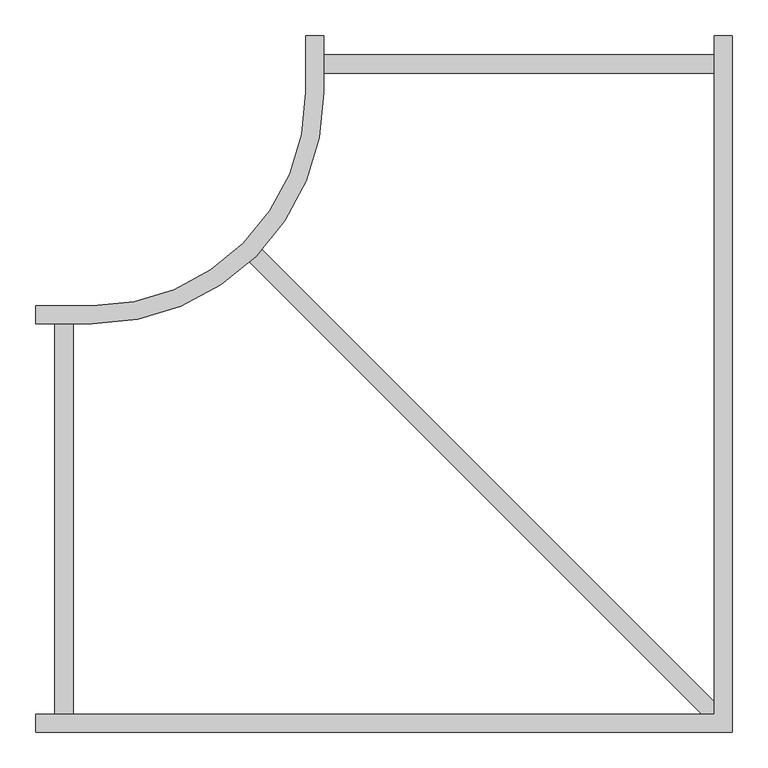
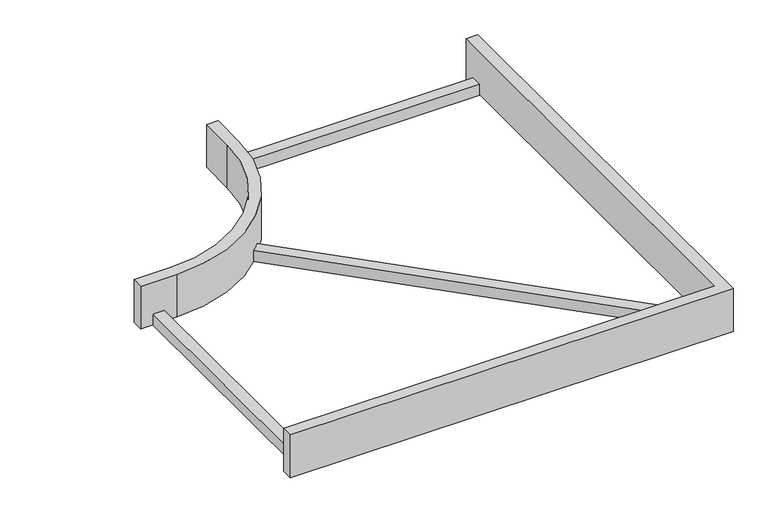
"""IFC4 building model written with IfcOpenShell, lengths in millimetres: cable carrier fitting geometry, Common_L 型接合部、交差梁付き : 03 強電_低圧."""

from ifc_helpers import new_model, si_unit, point, frame, frame_2d, origin, place, context, project, spatial, polyline, circle_curve, trimmed, segment, composite_curve, outline, extrude, source, transform, mapped, element, save


def cable_carrier_fitting_33c5562a(model_context):
    return source(origin(), model_context, "Body", "SweptSolid", [
        extrude(outline(composite_curve([segment(polyline([(274.6, -274.6), (256.6394878, -274.6), (-379.063021, 361.1025088)]), True, "CONTINUOUS"), segment(trimmed(circle_curve(frame_2d((-600.0, 600.0)), 325.4), [point((-379.063021, 361.1025088))], [point((-361.1025088, 379.063021))], True, "CARTESIAN"), True, "CONTINUOUS"), segment(polyline([(-361.1025088, 379.063021), (274.6, -256.6394878), (274.6, -274.6)]), True, "CONTINUOUS")], self_intersect=False)), frame((0.0, 0.0, -50.0), z_axis=(0.0, 0.0, 1.0), x_axis=(1.0, 0.0, 0.0)), (0.0, 0.0, 1.0), 25.4),
        extrude(outline(polyline([(-680.0, -300.0), (-680.0, -274.6), (274.6, -274.6), (274.6, 680.0), (300.0, 680.0), (300.0, -300.0), (-680.0, -300.0)])), frame((0.0, 0.0, -50.0), z_axis=(0.0, 0.0, 1.0), x_axis=(1.0, 0.0, 0.0)), (0.0, 0.0, 1.0), 100.0),
        extrude(outline(composite_curve([segment(polyline([(-680.0, 274.6), (-680.0, 300.0), (-600.0, 300.0)]), True, "CONTINUOUS"), segment(trimmed(circle_curve(frame_2d((-600.0, 600.0)), 300.0), [point((-600.0, 300.0))], [point((-300.0, 600.0))], True, "CARTESIAN"), True, "CONTINUOUS"), segment(polyline([(-300.0, 600.0), (-300.0, 680.0), (-274.6, 680.0), (-274.6, 600.0)]), True, "CONTINUOUS"), segment(trimmed(circle_curve(frame_2d((-600.0, 600.0)), 325.4), [point((-274.6, 600.0))], [point((-600.0, 274.6))], False, "CARTESIAN"), True, "CONTINUOUS"), segment(polyline([(-600.0, 274.6), (-680.0, 274.6)]), True, "CONTINUOUS")], self_intersect=False)), frame((0.0, 0.0, -50.0), z_axis=(0.0, 0.0, 1.0), x_axis=(1.0, 0.0, 0.0)), (0.0, 0.0, 1.0), 100.0),
        extrude(outline(polyline([(-274.6, 627.3), (-274.6, 652.7), (274.6, 652.7), (274.6, 627.3), (-274.6, 627.3)])), frame((0.0, 0.0, -50.0), z_axis=(0.0, 0.0, 1.0), x_axis=(1.0, 0.0, 0.0)), (0.0, 0.0, 1.0), 25.4),
        extrude(outline(polyline([(-652.7, 274.6), (-627.3, 274.6), (-627.3, -274.6), (-652.7, -274.6), (-652.7, 274.6)])), frame((0.0, 0.0, -50.0), z_axis=(0.0, 0.0, 1.0), x_axis=(1.0, 0.0, 0.0)), (0.0, 0.0, 1.0), 25.4),
    ])


if __name__ == "__main__":
    model = new_model("IFC4")
    model_context = context("Model", 3, world=origin())
    ifc_project = project(units=[si_unit("LENGTHUNIT", "METRE", prefix="MILLI")], contexts=[model_context])
    site = spatial("IfcSite", under=ifc_project)
    building = spatial("IfcBuilding", under=site)
    placement = place(None, origin())
    cable_carrier_fitting_shape = cable_carrier_fitting_33c5562a(model_context)
    element("IfcCableCarrierFitting", 1, ObjectType="Common_L 型接合部、交差梁付き : 03 強電_低圧", at=placement, inside=building, context=model_context, shape_type="MappedRepresentation", body=[
        mapped(cable_carrier_fitting_shape, transform((0.0, 0.0, 0.0), x_axis=(1.0, 0.0, 0.0), y_axis=(0.0, 1.0, 0.0), z_axis=(0.0, 0.0, 1.0))),
    ])
    save(model, "model.ifc")
